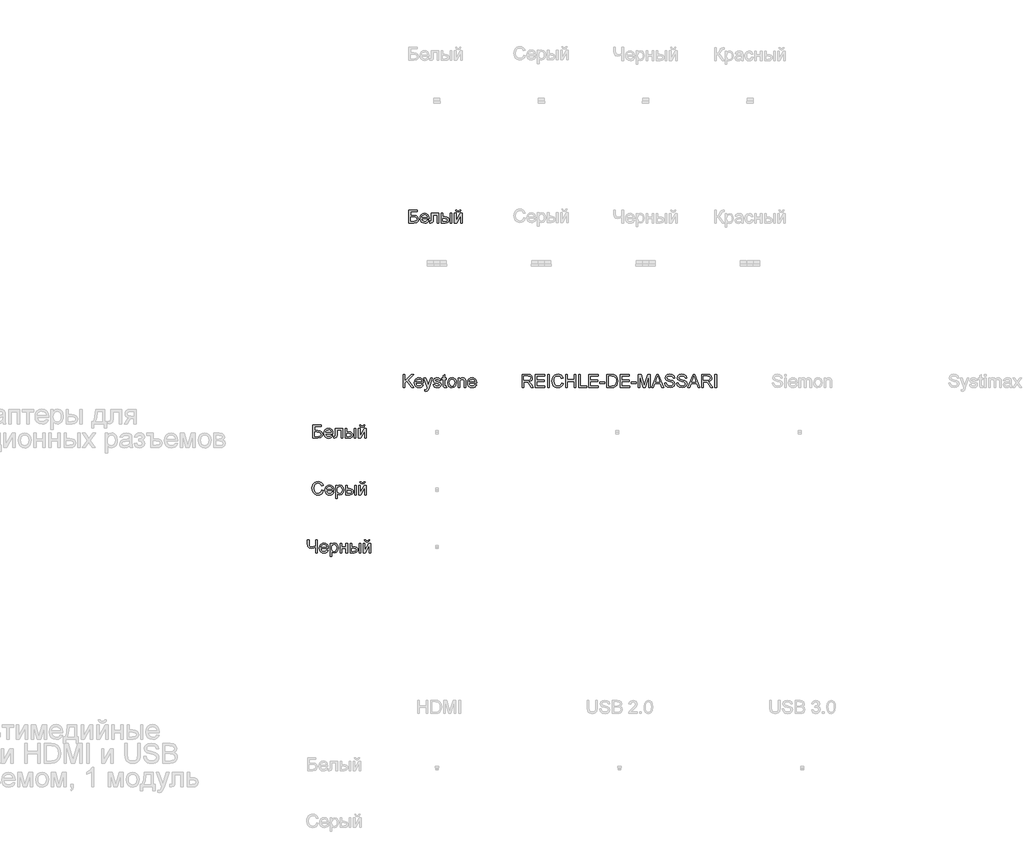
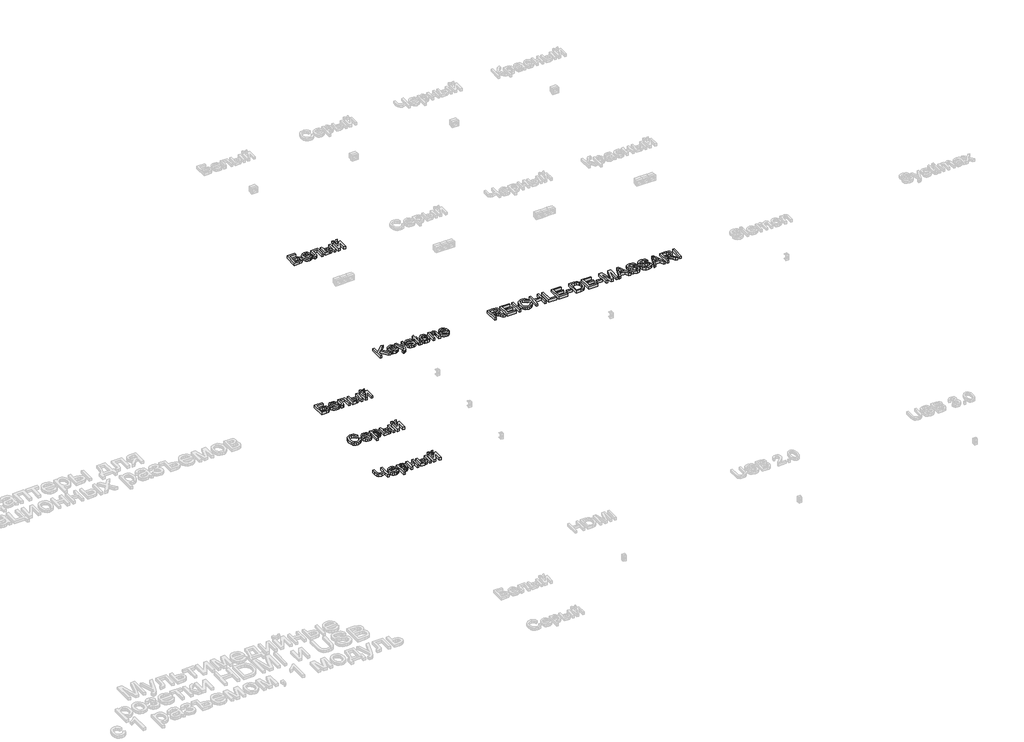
# One storey, part 13 of 15: 6 proxies.
"""IFC4 building model written with IfcOpenShell, lengths in millimetres."""

from ifc_helpers import new_model, si_unit, origin, origin_with_axes, place, context, project, spatial, polyline, outline, extrude, element, save

model = new_model("IFC4")

# Units and contexts
model_context = context("Model", 3, world=origin())
ifc_project = project(units=[si_unit("LENGTHUNIT", "METRE", prefix="MILLI")], contexts=[model_context])

# Site, building, storey
site = spatial("IfcSite", under=ifc_project)
building = spatial("IfcBuilding", under=site)
storey = spatial("IfcBuildingStorey", under=building, Name="Этаж 01", Elevation=0.0)

# Proxies
placement = place(None, origin())
element("IfcBuildingElementProxy", 1, Name="100 мм Arial", ObjectType="100 мм Arial", at=placement, inside=storey, context=model_context, shape_type="SweptSolid", body=[
    extrude(outline(polyline([(1294.7289559, 3453.6983923), (1357.5141498, 3453.6983923), (1357.5141498, 3441.1413536), (1307.2859947, 3441.1413536), (1307.2859947, 3411.3183865), (1330.8059169, 3411.3183865), (1351.529936, 3408.767738), (1363.8662455, 3399.1292297), (1368.5015587, 3382.6481163), (1365.2028835, 3368.3375067), (1355.3559087, 3357.4604624), (1333.0622598, 3353.2420822), (1294.7289559, 3353.2420822), (1294.7289559, 3453.6983923)]), holes=[polyline([(1307.2859947, 3365.799121), (1334.1904313, 3365.799121), (1350.4998664, 3369.9439248), (1354.5833565, 3375.1249295), (1355.9445199, 3382.3783362), (1352.8297857, 3392.2130482), (1344.1600333, 3397.461498), (1325.238636, 3398.7613477), (1307.2859947, 3398.7613477), (1307.2859947, 3365.799121)])]), origin_with_axes(), (0.0, 0.0, 1.0), 20.0),
    extrude(outline(polyline([(1435.8484893, 3375.2169), (1448.1602734, 3373.6472702), (1443.7242296, 3364.3705125), (1436.6455669, 3357.4359369), (1427.0837007, 3353.1133235), (1415.1980466, 3351.6724523), (1400.4643727, 3354.1587215), (1389.1274759, 3361.6175289), (1381.8985947, 3373.5644967), (1379.4889676, 3389.5152469), (1381.9231201, 3406.0024917), (1389.2255777, 3418.3326699), (1400.4091904, 3426.0214036), (1414.4868081, 3428.5843148), (1428.126033, 3426.0275349), (1439.0245372, 3418.3571953), (1446.1706449, 3406.0515426), (1448.5526808, 3389.5888233), (1448.4791044, 3386.204309), (1392.0460064, 3386.204309), (1394.2195758, 3376.804924), (1399.2687562, 3369.8948738), (1406.5558854, 3365.6458368), (1415.4433013, 3364.2294911), (1427.7550854, 3366.853716), (1435.8484893, 3375.2169)]), holes=[polyline([(1392.0460064, 3398.7613477), (1435.9956421, 3398.7613477), (1430.9679215, 3410.1411641), (1423.6470698, 3414.555748), (1414.4377571, 3416.027276), (1398.9744506, 3411.3306492), (1394.1092112, 3405.8400104), (1392.0460064, 3398.7613477)])]), origin_with_axes(), (0.0, 0.0, 1.0), 20.0),
    extrude(outline(polyline([(1467.388239, 3427.014685), (1523.8949134, 3427.014685), (1523.8949134, 3353.3156586), (1511.3378747, 3353.3156586), (1511.3378747, 3414.4576462), (1479.9452778, 3414.4576462), (1479.9452778, 3379.263602), (1479.0991492, 3363.0277433), (1474.4515733, 3356.1728754), (1463.4641644, 3353.2420822), (1453.2615704, 3353.8797443), (1453.2615704, 3365.799121), (1458.8779022, 3365.799121), (1464.5555476, 3366.5716731), (1466.8241533, 3369.0242198), (1467.388239, 3379.9748405), (1467.388239, 3427.014685)])), origin_with_axes(), (0.0, 0.0, 1.0), 20.0),
    extrude(outline(polyline([(1611.7941848, 3427.014685), (1624.3512236, 3427.014685), (1624.3512236, 3353.2420822), (1611.7941848, 3353.2420822), (1611.7941848, 3427.014685)])), origin_with_axes(), (0.0, 0.0, 1.0), 20.0),
    extrude(outline(polyline([(1542.7304716, 3427.014685), (1555.2875104, 3427.014685), (1555.2875104, 3400.3309776), (1570.8121306, 3400.3309776), (1584.2306263, 3398.758282), (1594.1726373, 3394.0401954), (1600.3254636, 3386.5568625), (1602.3764057, 3376.688428), (1600.6565574, 3367.7029103), (1595.4970124, 3360.1214755), (1586.5605456, 3354.9619305), (1573.5099319, 3353.2420822), (1542.7304716, 3353.2420822), (1542.7304716, 3427.014685)]), holes=[polyline([(1555.2875104, 3365.799121), (1568.1879057, 3365.799121), (1584.8406973, 3368.4356086), (1589.819367, 3376.6639025), (1586.1282843, 3384.3894244), (1569.8311119, 3387.7739388), (1555.2875104, 3387.7739388), (1555.2875104, 3365.799121)])]), origin_with_axes(), (0.0, 0.0, 1.0), 20.0),
    extrude(outline(polyline([(1643.1867817, 3427.014685), (1655.7438205, 3427.014685), (1655.7438205, 3370.7532652), (1686.5968572, 3427.014685), (1702.8327159, 3427.014685), (1702.8327159, 3353.2420822), (1690.2756771, 3353.2420822), (1690.2756771, 3409.1601455), (1659.6188442, 3353.2420822), (1643.1867817, 3353.2420822), (1643.1867817, 3427.014685)])), origin_with_axes(), (0.0, 0.0, 1.0), 20.0),
    extrude(outline(polyline([(1683.9971577, 3453.6983923), (1693.4149368, 3453.6983923), (1687.3203584, 3439.7311393), (1673.7945637, 3434.8628342), (1659.1528603, 3439.6943511), (1652.6045608, 3453.6983923), (1662.0223399, 3453.6983923), (1665.5540071, 3446.6227953), (1672.6663923, 3444.2806133), (1680.4654906, 3446.5492189), (1683.9971577, 3453.6983923)])), origin_with_axes(), (0.0, 0.0, 1.0), 20.0),
])
element("IfcBuildingElementProxy", 2, Name="100 мм Arial", ObjectType="100 мм Arial", at=placement, inside=storey, context=model_context, shape_type="SweptSolid", body=[
    extrude(outline(polyline([(558.5746136, 1803.722234), (621.3598074, 1803.722234), (621.3598074, 1791.1651952), (571.1316523, 1791.1651952), (571.1316523, 1761.3422282), (594.6515746, 1761.3422282), (615.3755936, 1758.7915797), (627.7119032, 1749.1530714), (632.3472163, 1732.671958), (629.0485411, 1718.3613484), (619.2015664, 1707.4843041), (596.9079175, 1703.2659239), (558.5746136, 1703.2659239), (558.5746136, 1803.722234)]), holes=[polyline([(571.1316523, 1715.8229626), (598.0360889, 1715.8229626), (614.345524, 1719.9677664), (618.4290142, 1725.1487712), (619.7901776, 1732.4021779), (616.6754433, 1742.2368899), (608.005691, 1747.4853397), (589.0842937, 1748.7851894), (571.1316523, 1748.7851894), (571.1316523, 1715.8229626)])]), origin_with_axes(), (0.0, 0.0, 1.0), 20.0),
    extrude(outline(polyline([(699.6941469, 1725.2407417), (712.005931, 1723.6711119), (707.5698873, 1714.3943542), (700.4912246, 1707.4597786), (690.9293584, 1703.1371652), (679.0437042, 1701.696294), (664.3100303, 1704.1825632), (652.9731335, 1711.6413706), (645.7442523, 1723.5883384), (643.3346253, 1739.5390886), (645.7687778, 1756.0263333), (653.0712354, 1768.3565115), (664.254848, 1776.0452452), (678.3324657, 1778.6081565), (691.9716907, 1776.0513766), (702.8701948, 1768.381037), (710.0163026, 1756.0753843), (712.3983385, 1739.612665), (712.3247621, 1736.2281506), (655.891664, 1736.2281506), (658.0652335, 1726.8287657), (663.1144139, 1719.9187155), (670.401543, 1715.6696785), (679.2889589, 1714.2533328), (691.600743, 1716.8775577), (699.6941469, 1725.2407417)]), holes=[polyline([(655.891664, 1748.7851894), (699.8412997, 1748.7851894), (694.8135791, 1760.1650058), (687.4927274, 1764.5795897), (678.2834148, 1766.0511177), (662.8201083, 1761.3544909), (657.9548689, 1755.8638521), (655.891664, 1748.7851894)])]), origin_with_axes(), (0.0, 0.0, 1.0), 20.0),
    extrude(outline(polyline([(731.2338966, 1777.0385266), (787.7405711, 1777.0385266), (787.7405711, 1703.3395003), (775.1835323, 1703.3395003), (775.1835323, 1764.4814879), (743.7909354, 1764.4814879), (743.7909354, 1729.2874437), (742.9448068, 1713.0515849), (738.2972309, 1706.1967171), (727.309822, 1703.2659239), (717.107228, 1703.903586), (717.107228, 1715.8229626), (722.7235598, 1715.8229626), (728.4012053, 1716.5955148), (730.6698109, 1719.0480615), (731.2338966, 1729.9986822), (731.2338966, 1777.0385266)])), origin_with_axes(), (0.0, 0.0, 1.0), 20.0),
    extrude(outline(polyline([(875.6398425, 1777.0385266), (888.1968812, 1777.0385266), (888.1968812, 1703.2659239), (875.6398425, 1703.2659239), (875.6398425, 1777.0385266)])), origin_with_axes(), (0.0, 0.0, 1.0), 20.0),
    extrude(outline(polyline([(806.5761292, 1777.0385266), (819.133168, 1777.0385266), (819.133168, 1750.3548193), (834.6577882, 1750.3548193), (848.076284, 1748.7821237), (858.0182949, 1744.0640371), (864.1711213, 1736.5807042), (866.2220634, 1726.7122697), (864.5022151, 1717.726752), (859.3426701, 1710.1453172), (850.4062033, 1704.9857722), (837.3555895, 1703.2659239), (806.5761292, 1703.2659239), (806.5761292, 1777.0385266)]), holes=[polyline([(819.133168, 1715.8229626), (832.0335633, 1715.8229626), (848.686355, 1718.4594503), (853.6650246, 1726.6877442), (849.9739419, 1734.4132661), (833.6767696, 1737.7977805), (819.133168, 1737.7977805), (819.133168, 1715.8229626)])]), origin_with_axes(), (0.0, 0.0, 1.0), 20.0),
    extrude(outline(polyline([(907.0324394, 1777.0385266), (919.5894782, 1777.0385266), (919.5894782, 1720.7771068), (950.4425148, 1777.0385266), (966.6783735, 1777.0385266), (966.6783735, 1703.2659239), (954.1213348, 1703.2659239), (954.1213348, 1759.1839871), (923.4645018, 1703.2659239), (907.0324394, 1703.2659239), (907.0324394, 1777.0385266)])), origin_with_axes(), (0.0, 0.0, 1.0), 20.0),
    extrude(outline(polyline([(947.8428154, 1803.722234), (957.2605945, 1803.722234), (951.1660161, 1789.7549809), (937.6402214, 1784.8866759), (922.998518, 1789.7181927), (916.4502185, 1803.722234), (925.8679975, 1803.722234), (929.3996647, 1796.646637), (936.5120499, 1794.3044549), (944.3111482, 1796.5730606), (947.8428154, 1803.722234)])), origin_with_axes(), (0.0, 0.0, 1.0), 20.0),
])
element("IfcBuildingElementProxy", 3, Name="100 мм Arial", ObjectType="100 мм Arial", at=placement, inside=storey, context=model_context, shape_type="SweptSolid", body=[
    extrude(outline(polyline([(626.8535119, 1303.9750029), (639.4105506, 1300.7376413), (633.6164092, 1286.105135), (624.5235926, 1275.4150973), (612.5796905, 1268.8759948), (598.2322926, 1266.696294), (583.6672313, 1268.3456316), (572.1004083, 1273.2936445), (563.2344522, 1281.3686543), (556.7719918, 1292.3989828), (551.5112793, 1319.2543684), (552.9981357, 1333.9022032), (557.4587048, 1346.5512124), (564.6599949, 1356.7997917), (574.3690139, 1364.2463364), (585.8837203, 1368.780482), (598.5020728, 1370.2918639), (612.2700564, 1368.3359579), (623.6529385, 1362.4682401), (632.2950997, 1353.050461), (637.8409208, 1340.4443713), (625.283882, 1337.4522644), (614.9831862, 1352.8910455), (598.0115634, 1357.7348251), (578.3666649, 1352.363748), (567.2688914, 1337.9427738), (564.068318, 1319.2788939), (567.8575026, 1297.6474325), (579.6542519, 1283.8273323), (596.9814939, 1279.2533328), (607.463065, 1280.8106999), (616.1971967, 1285.4828012), (622.7914815, 1293.2205859), (626.8535119, 1303.9750029)])), origin_with_axes(), (0.0, 0.0, 1.0), 20.0),
    extrude(outline(polyline([(706.7574812, 1290.2407417), (719.0692653, 1288.6711119), (714.6332216, 1279.3943542), (707.5545589, 1272.4597786), (697.9926927, 1268.1371652), (686.1070386, 1266.696294), (671.3733647, 1269.1825632), (660.0364678, 1276.6413706), (652.8075866, 1288.5883384), (650.3979596, 1304.5390886), (652.8321121, 1321.0263333), (660.1345697, 1333.3565115), (671.3181824, 1341.0452452), (685.3958, 1343.6081565), (699.035025, 1341.0513766), (709.9335291, 1333.381037), (717.0796369, 1321.0753843), (719.4616728, 1304.612665), (719.3880964, 1301.2281506), (662.9549983, 1301.2281506), (665.1285678, 1291.8287657), (670.1777482, 1284.9187155), (677.4648774, 1280.6696785), (686.3522932, 1279.2533328), (698.6640773, 1281.8775577), (706.7574812, 1290.2407417)]), holes=[polyline([(662.9549983, 1313.7851894), (706.904634, 1313.7851894), (701.8769134, 1325.1650058), (694.5560617, 1329.5795897), (685.3467491, 1331.0511177), (669.8834426, 1326.3544909), (665.0182032, 1320.8638521), (662.9549983, 1313.7851894)])]), origin_with_axes(), (0.0, 0.0, 1.0), 20.0),
    extrude(outline(polyline([(732.0187116, 1240.0125866), (732.0187116, 1342.0385266), (744.5757503, 1342.0385266), (744.5757503, 1329.7267425), (753.2577654, 1340.137803), (764.9809383, 1343.6081565), (780.897966, 1338.7521141), (791.2967637, 1325.0669039), (794.8039054, 1305.716311), (790.8430426, 1285.3724366), (779.3405989, 1271.5155482), (763.4603594, 1266.696294), (752.5342642, 1269.9213928), (744.5757503, 1278.0761104), (744.5757503, 1240.0125866), (732.0187116, 1240.0125866)]), holes=[polyline([(744.5757503, 1304.5636141), (745.933848, 1293.306425), (750.0081411, 1285.4337503), (756.0199461, 1280.7984372), (763.1905793, 1279.2533328), (770.4777085, 1280.8536195), (776.6427976, 1285.6544795), (780.8458494, 1293.8153284), (782.2468666, 1305.4955818), (780.8795719, 1316.6914572), (776.7776876, 1324.6744965), (770.7750797, 1329.4569624), (763.7056141, 1331.0511177), (756.6085572, 1329.3557948), (750.3760231, 1324.2698263), (746.0258185, 1315.9526275), (744.5757503, 1304.5636141)])]), origin_with_axes(), (0.0, 0.0, 1.0), 20.0),
    extrude(outline(polyline([(877.9942872, 1342.0385266), (890.551326, 1342.0385266), (890.551326, 1268.2659239), (877.9942872, 1268.2659239), (877.9942872, 1342.0385266)])), origin_with_axes(), (0.0, 0.0, 1.0), 20.0),
    extrude(outline(polyline([(808.930574, 1342.0385266), (821.4876128, 1342.0385266), (821.4876128, 1315.3548193), (837.012233, 1315.3548193), (850.4307288, 1313.7821237), (860.3727397, 1309.0640371), (866.525566, 1301.5807042), (868.5765082, 1291.7122697), (866.8566598, 1282.726752), (861.6971149, 1275.1453172), (852.7606481, 1269.9857722), (839.7100343, 1268.2659239), (808.930574, 1268.2659239), (808.930574, 1342.0385266)]), holes=[polyline([(821.4876128, 1280.8229626), (834.3880081, 1280.8229626), (851.0407997, 1283.4594503), (856.0194694, 1291.6877442), (852.3283867, 1299.4132661), (836.0312143, 1302.7977805), (821.4876128, 1302.7977805), (821.4876128, 1280.8229626)])]), origin_with_axes(), (0.0, 0.0, 1.0), 20.0),
    extrude(outline(polyline([(950.1972602, 1368.722234), (959.6150392, 1368.722234), (953.5204609, 1354.7549809), (939.9946662, 1349.8866759), (925.3529628, 1354.7181927), (918.8046632, 1368.722234), (928.2224423, 1368.722234), (931.7541095, 1361.646637), (938.8664947, 1359.3044549), (946.665593, 1361.5730606), (950.1972602, 1368.722234)])), origin_with_axes(), (0.0, 0.0, 1.0), 20.0),
    extrude(outline(polyline([(909.3868842, 1342.0385266), (921.9439229, 1342.0385266), (921.9439229, 1285.7771068), (952.7969596, 1342.0385266), (969.0328183, 1342.0385266), (969.0328183, 1268.2659239), (956.4757795, 1268.2659239), (956.4757795, 1324.1839871), (925.8189466, 1268.2659239), (909.3868842, 1268.2659239), (909.3868842, 1342.0385266)])), origin_with_axes(), (0.0, 0.0, 1.0), 20.0),
])
element("IfcBuildingElementProxy", 4, Name="100 мм Arial", ObjectType="100 мм Arial", at=placement, inside=storey, context=model_context, shape_type="SweptSolid", body=[
    extrude(outline(polyline([(592.3216553, 823.2659239), (579.7646165, 823.2659239), (579.7646165, 863.4876887), (548.6663252, 856.2281506), (530.3090136, 861.1945576), (519.6649612, 873.8006473), (516.9794226, 893.8011651), (516.9794226, 923.722234), (529.5364614, 923.722234), (529.5364614, 895.4934223), (531.0447776, 881.9155109), (535.5697261, 873.9478001), (550.0642767, 868.7851894), (579.7646165, 875.0146579), (579.7646165, 923.722234), (592.3216553, 923.722234), (592.3216553, 823.2659239)])), origin_with_axes(), (0.0, 0.0, 1.0), 20.0),
    extrude(outline(polyline([(664.3774754, 845.2407417), (676.6892595, 843.6711119), (672.2532158, 834.3943542), (665.174553, 827.4597786), (655.6126868, 823.1371652), (643.7270327, 821.696294), (628.9933588, 824.1825632), (617.656462, 831.6413706), (610.4275808, 843.5883384), (608.0179537, 859.5390886), (610.4521062, 876.0263333), (617.7545639, 888.3565115), (628.9381765, 896.0452452), (643.0157942, 898.6081565), (656.6550192, 896.0513766), (667.5535233, 888.381037), (674.699631, 876.0753843), (677.0816669, 859.612665), (677.0080905, 856.2281506), (620.5749925, 856.2281506), (622.7485619, 846.8287657), (627.7977423, 839.9187155), (635.0848715, 835.6696785), (643.9722874, 834.2533328), (656.2840715, 836.8775577), (664.3774754, 845.2407417)]), holes=[polyline([(620.5749925, 868.7851894), (664.5246282, 868.7851894), (659.4969076, 880.1650058), (652.1760559, 884.5795897), (642.9667433, 886.0511177), (627.5034367, 881.3544909), (622.6381973, 875.8638521), (620.5749925, 868.7851894)])]), origin_with_axes(), (0.0, 0.0, 1.0), 20.0),
    extrude(outline(polyline([(689.6387057, 795.0125866), (689.6387057, 897.0385266), (702.1957445, 897.0385266), (702.1957445, 884.7267425), (710.8777596, 895.137803), (722.6009325, 898.6081565), (738.5179601, 893.7521141), (748.9167579, 880.0669039), (752.4238996, 860.716311), (748.4630367, 840.3724366), (736.960593, 826.5155482), (721.0803536, 821.696294), (710.1542583, 824.9213928), (702.1957445, 833.0761104), (702.1957445, 795.0125866), (689.6387057, 795.0125866)]), holes=[polyline([(702.1957445, 859.5636141), (703.5538422, 848.306425), (707.6281353, 840.4337503), (713.6399402, 835.7984372), (720.8105734, 834.2533328), (728.0977026, 835.8536195), (734.2627917, 840.6544795), (738.4658435, 848.8153284), (739.8668608, 860.4955818), (738.499566, 871.6914572), (734.3976818, 879.6744965), (728.3950739, 884.4569624), (721.3256082, 886.0511177), (714.2285514, 884.3557948), (707.9960173, 879.2698263), (703.6458127, 870.9526275), (702.1957445, 859.5636141)])]), origin_with_axes(), (0.0, 0.0, 1.0), 20.0),
    extrude(outline(polyline([(766.5505682, 897.0385266), (779.1076069, 897.0385266), (779.1076069, 868.7851894), (812.0698337, 868.7851894), (812.0698337, 897.0385266), (824.6268725, 897.0385266), (824.6268725, 823.2659239), (812.0698337, 823.2659239), (812.0698337, 856.2281506), (779.1076069, 856.2281506), (779.1076069, 823.2659239), (766.5505682, 823.2659239), (766.5505682, 897.0385266)])), origin_with_axes(), (0.0, 0.0, 1.0), 20.0),
    extrude(outline(polyline([(843.4624306, 897.0385266), (856.0194694, 897.0385266), (856.0194694, 870.3548193), (871.5440896, 870.3548193), (884.9625854, 868.7821237), (894.9045963, 864.0640371), (901.0574227, 856.5807042), (903.1083648, 846.7122697), (901.3885165, 837.726752), (896.2289715, 830.1453172), (887.2925047, 824.9857722), (874.2418909, 823.2659239), (843.4624306, 823.2659239), (843.4624306, 897.0385266)]), holes=[polyline([(856.0194694, 835.8229626), (868.9198647, 835.8229626), (885.5726563, 838.4594503), (890.551326, 846.6877442), (886.8602433, 854.4132661), (870.5630709, 857.7977805), (856.0194694, 857.7977805), (856.0194694, 835.8229626)])]), origin_with_axes(), (0.0, 0.0, 1.0), 20.0),
    extrude(outline(polyline([(912.5261439, 897.0385266), (925.0831826, 897.0385266), (925.0831826, 823.2659239), (912.5261439, 823.2659239), (912.5261439, 897.0385266)])), origin_with_axes(), (0.0, 0.0, 1.0), 20.0),
    extrude(outline(polyline([(943.9187408, 897.0385266), (956.4757795, 897.0385266), (956.4757795, 840.7771068), (987.3288162, 897.0385266), (1003.5646749, 897.0385266), (1003.5646749, 823.2659239), (991.0076362, 823.2659239), (991.0076362, 879.1839871), (960.3508032, 823.2659239), (943.9187408, 823.2659239), (943.9187408, 897.0385266)])), origin_with_axes(), (0.0, 0.0, 1.0), 20.0),
    extrude(outline(polyline([(984.7291168, 923.722234), (994.1468959, 923.722234), (988.0523175, 909.7549809), (974.5265228, 904.8866759), (959.8848194, 909.7181927), (953.3365199, 923.722234), (962.7542989, 923.722234), (966.2859661, 916.646637), (973.3983513, 914.3044549), (981.1974496, 916.5730606), (984.7291168, 923.722234)])), origin_with_axes(), (0.0, 0.0, 1.0), 20.0),
])
element("IfcBuildingElementProxy", 5, Name="100 мм Arial", ObjectType="100 мм Arial", at=placement, inside=storey, context=model_context, shape_type="SweptSolid", body=[
    extrude(outline(polyline([(1249.6065283, 2091.312908), (1249.6065283, 2191.7692181), (1262.1635671, 2191.7692181), (1262.1635671, 2142.5956581), (1313.6670464, 2191.7692181), (1331.2272803, 2191.7692181), (1287.9888832, 2150.4683328), (1332.7969102, 2091.312908), (1317.4439682, 2091.312908), (1279.0861389, 2141.9825214), (1262.1635671, 2125.8447646), (1262.1635671, 2091.312908), (1249.6065283, 2091.312908)])), origin_with_axes(), (0.0, 0.0, 1.0), 20.0),
    extrude(outline(polyline([(1392.2956915, 2113.2877258), (1404.6074756, 2111.718096), (1400.1714319, 2102.4413383), (1393.0927692, 2095.5067627), (1383.530903, 2091.1841493), (1371.6452489, 2089.7432781), (1356.911575, 2092.2295473), (1345.5746781, 2099.6883547), (1338.3457969, 2111.6353225), (1335.9361699, 2127.5860727), (1338.3703224, 2144.0733174), (1345.67278, 2156.4034956), (1356.8563927, 2164.0922293), (1370.9340103, 2166.6551406), (1384.5732353, 2164.0983607), (1395.4717394, 2156.4280211), (1402.6178472, 2144.1223684), (1404.9998831, 2127.6596491), (1404.9263067, 2124.2751347), (1348.4932086, 2124.2751347), (1350.6667781, 2114.8757497), (1355.7159585, 2107.9656996), (1363.0030877, 2103.7166626), (1371.8905035, 2102.3003169), (1384.2022876, 2104.9245418), (1392.2956915, 2113.2877258)]), holes=[polyline([(1348.4932086, 2136.8321735), (1392.4428443, 2136.8321735), (1387.4151237, 2148.2119899), (1380.094272, 2152.6265738), (1370.8849594, 2154.0981018), (1355.4216529, 2149.401475), (1350.5564135, 2143.9108362), (1348.4932086, 2136.8321735)])]), origin_with_axes(), (0.0, 0.0, 1.0), 20.0),
    extrude(outline(polyline([(1417.5569219, 2063.0595707), (1415.987292, 2075.1506256), (1422.3639133, 2074.0469796), (1428.3236016, 2075.4326685), (1431.9778961, 2079.2954294), (1435.4114614, 2088.5415303), (1436.39248, 2091.5826881), (1409.7087726, 2165.0855107), (1422.9525245, 2165.0855107), (1437.1037185, 2124.1279819), (1442.0333373, 2107.7449704), (1446.962956, 2122.2149955), (1461.5065576, 2165.0855107), (1474.6522075, 2165.0855107), (1448.9740443, 2089.5470744), (1442.3031174, 2073.1640629), (1435.0190539, 2064.3103695), (1425.2333928, 2061.4899409), (1417.5569219, 2063.0595707)])), origin_with_axes(), (0.0, 0.0, 1.0), 20.0),
    extrude(outline(polyline([(1480.3421157, 2113.2877258), (1492.8991545, 2114.8573556), (1498.71169, 2105.5376784), (1512.0290182, 2102.3003169), (1524.8313117, 2105.2678983), (1529.0006409, 2112.2331307), (1524.8067862, 2117.873988), (1511.8818654, 2121.4547061), (1492.9727309, 2127.5983354), (1484.7199114, 2134.7720343), (1481.9117456, 2144.9010519), (1484.1680885, 2154.2575173), (1490.3239805, 2161.4066908), (1498.3070198, 2165.1222989), (1509.1104877, 2166.6551406), (1524.3898533, 2164.1903312), (1534.1019379, 2157.5194043), (1538.41842, 2146.2499526), (1525.8613812, 2144.6803227), (1521.140229, 2151.608767), (1510.0915064, 2154.0981018), (1498.0740279, 2151.7191316), (1494.4687843, 2146.1763762), (1495.9648378, 2142.5220817), (1500.6492018, 2139.750704), (1511.4649325, 2137.0774282), (1529.8958205, 2131.1667908), (1538.4552082, 2124.4713384), (1541.5576797, 2113.5575059), (1537.915648, 2101.5400274), (1527.4064856, 2092.8212241), (1511.85734, 2089.7432781), (1499.196068, 2091.2270688), (1489.9560985, 2095.678441), (1483.7879437, 2103.0483436), (1480.3421157, 2113.2877258)])), origin_with_axes(), (0.0, 0.0, 1.0), 20.0),
    extrude(outline(polyline([(1582.3680557, 2101.7852821), (1583.9376855, 2090.945026), (1574.5444319, 2089.7432781), (1564.0230069, 2091.8279427), (1558.7745571, 2097.2971217), (1557.2539782, 2111.5464177), (1557.2539782, 2152.5284719), (1547.8361991, 2152.5284719), (1547.8361991, 2165.0855107), (1557.2539782, 2165.0855107), (1557.2539782, 2183.0136266), (1569.8110169, 2190.395792), (1569.8110169, 2165.0855107), (1582.3680557, 2165.0855107), (1582.3680557, 2152.5284719), (1569.8110169, 2152.5284719), (1569.8110169, 2111.9142997), (1570.4732045, 2105.4395766), (1572.6191828, 2103.1464455), (1576.8988767, 2102.3003169), (1582.3680557, 2101.7852821)])), origin_with_axes(), (0.0, 0.0, 1.0), 20.0),
    extrude(outline(polyline([(1591.7858348, 2128.1992093), (1594.5020302, 2145.9863038), (1602.6506164, 2158.4881603), (1612.7183203, 2164.6133955), (1624.772587, 2166.6551406), (1637.9642222, 2164.1688714), (1648.5009757, 2156.710064), (1655.4079602, 2144.8673294), (1657.7102883, 2129.2292789), (1653.6390609, 2106.8865791), (1641.7809979, 2094.2437012), (1624.772587, 2089.7432781), (1611.4215363, 2092.2203502), (1600.8970455, 2099.6515665), (1594.0636375, 2111.7426214), (1591.7858348, 2128.1992093)]), holes=[polyline([(1604.3428735, 2128.2237348), (1605.7960074, 2116.8592468), (1610.1554091, 2108.7627773), (1616.7159713, 2103.915932), (1624.772587, 2102.3003169), (1632.7924145, 2103.925129), (1639.340714, 2108.7995655), (1643.7001157, 2117.0033339), (1645.1532495, 2128.6161423), (1643.6909186, 2139.6495364), (1639.3039258, 2147.6356414), (1632.7464293, 2152.4824867), (1624.772587, 2154.0981018), (1616.7159713, 2152.4886181), (1610.1554091, 2147.6601669), (1605.7960074, 2139.5820914), (1604.3428735, 2128.2237348)])]), origin_with_axes(), (0.0, 0.0, 1.0), 20.0),
    extrude(outline(polyline([(1671.8369569, 2091.312908), (1671.8369569, 2165.0855107), (1684.3939957, 2165.0855107), (1684.3939957, 2154.7848149), (1693.9957158, 2163.6875591), (1707.1045775, 2166.6551406), (1718.9626405, 2164.2639076), (1727.0560444, 2157.9853882), (1730.8207035, 2148.7515501), (1731.4828911, 2136.6114443), (1731.4828911, 2091.312908), (1718.9258523, 2091.312908), (1718.9258523, 2134.9191871), (1717.4788498, 2146.0292234), (1712.3652901, 2151.9030726), (1703.7445886, 2154.0981018), (1690.1206921, 2149.1684831), (1685.8256698, 2142.025441), (1684.3939957, 2130.4555522), (1684.3939957, 2091.312908), (1671.8369569, 2091.312908)])), origin_with_axes(), (0.0, 0.0, 1.0), 20.0),
    extrude(outline(polyline([(1800.3994515, 2113.2877258), (1812.7112356, 2111.718096), (1808.2751919, 2102.4413383), (1801.1965292, 2095.5067627), (1791.634663, 2091.1841493), (1779.7490088, 2089.7432781), (1765.0153349, 2092.2295473), (1753.6784381, 2099.6883547), (1746.4495569, 2111.6353225), (1744.0399298, 2127.5860727), (1746.4740824, 2144.0733174), (1753.77654, 2156.4034956), (1764.9601526, 2164.0922293), (1779.0377703, 2166.6551406), (1792.6769953, 2164.0983607), (1803.5754994, 2156.4280211), (1810.7216072, 2144.1223684), (1813.1036431, 2127.6596491), (1813.0300667, 2124.2751347), (1756.5969686, 2124.2751347), (1758.7705381, 2114.8757497), (1763.8197185, 2107.9656996), (1771.1068476, 2103.7166626), (1779.9942635, 2102.3003169), (1792.3060476, 2104.9245418), (1800.3994515, 2113.2877258)]), holes=[polyline([(1756.5969686, 2136.8321735), (1800.5466043, 2136.8321735), (1795.5188837, 2148.2119899), (1788.198032, 2152.6265738), (1778.9887194, 2154.0981018), (1763.5254129, 2149.401475), (1758.6601735, 2143.9108362), (1756.5969686, 2136.8321735)])]), origin_with_axes(), (0.0, 0.0, 1.0), 20.0),
])
element("IfcBuildingElementProxy", 6, Name="100 мм Arial", ObjectType="100 мм Arial", at=placement, inside=storey, context=model_context, shape_type="SweptSolid", body=[
    extrude(outline(polyline([(2162.6192748, 2091.312908), (2162.6192748, 2191.7692181), (2205.9067229, 2191.7692181), (2226.0053426, 2189.0591541), (2236.9927515, 2179.4696967), (2241.1007671, 2164.2761703), (2239.3993129, 2154.3801447), (2234.2949502, 2146.1763762), (2225.6343949, 2140.1615055), (2213.2643628, 2136.8321735), (2220.4012735, 2131.4610964), (2230.5793421, 2118.5361756), (2247.3302356, 2091.312908), (2232.7375831, 2091.312908), (2219.6655095, 2112.1350289), (2210.223205, 2125.918341), (2203.5890663, 2132.4298523), (2197.6171153, 2134.8210852), (2190.3330518, 2135.2625436), (2175.1763136, 2135.2625436), (2175.1763136, 2091.312908), (2162.6192748, 2091.312908)]), holes=[polyline([(2175.1763136, 2147.8195824), (2203.282498, 2147.8195824), (2217.6176331, 2149.5976787), (2225.7600879, 2155.2875869), (2228.5437284, 2163.8101865), (2223.2339649, 2174.8711718), (2206.4462832, 2179.2121793), (2175.1763136, 2179.2121793), (2175.1763136, 2147.8195824)])]), origin_with_axes(), (0.0, 0.0, 1.0), 20.0),
    extrude(outline(polyline([(2263.075585, 2091.312908), (2263.075585, 2191.7692181), (2335.2785579, 2191.7692181), (2335.2785579, 2179.2121793), (2275.6326237, 2179.2121793), (2275.6326237, 2149.3892123), (2332.1392982, 2149.3892123), (2332.1392982, 2136.8321735), (2275.6326237, 2136.8321735), (2275.6326237, 2103.8699467), (2336.8481877, 2103.8699467), (2336.8481877, 2091.312908), (2263.075585, 2091.312908)])), origin_with_axes(), (0.0, 0.0, 1.0), 20.0),
    extrude(outline(polyline([(2357.2533757, 2091.312908), (2357.2533757, 2191.7692181), (2369.8104145, 2191.7692181), (2369.8104145, 2091.312908), (2357.2533757, 2091.312908)])), origin_with_axes(), (0.0, 0.0, 1.0), 20.0),
    extrude(outline(polyline([(2465.5578351, 2127.0219869), (2478.1148739, 2123.7846254), (2472.3207325, 2109.152119), (2463.2279158, 2098.4620814), (2451.2840137, 2091.9229789), (2436.9366159, 2089.7432781), (2422.3715546, 2091.3926157), (2410.8047315, 2096.3406286), (2401.9387754, 2104.4156383), (2395.476315, 2115.4459668), (2390.2156025, 2142.3013525), (2391.7024589, 2156.9491873), (2396.1630281, 2169.5981965), (2403.3643181, 2179.8467758), (2413.0733371, 2187.2933205), (2424.5880436, 2191.8274661), (2437.206396, 2193.3388479), (2450.9743797, 2191.382942), (2462.3572618, 2185.5152242), (2470.999423, 2176.0974451), (2476.545244, 2163.4913554), (2463.9882053, 2160.4992485), (2453.6875094, 2175.9380296), (2436.7158867, 2180.7818092), (2417.0709881, 2175.410732), (2405.9732146, 2160.9897578), (2402.7726413, 2142.3258779), (2406.5618258, 2120.6944166), (2418.3585751, 2106.8743163), (2435.6858171, 2102.3003169), (2446.1673883, 2103.857684), (2454.90152, 2108.5297853), (2461.4958047, 2116.26757), (2465.5578351, 2127.0219869)])), origin_with_axes(), (0.0, 0.0, 1.0), 20.0),
    extrude(outline(polyline([(2495.3808022, 2091.312908), (2495.3808022, 2191.7692181), (2507.937841, 2191.7692181), (2507.937841, 2150.9588421), (2561.3052557, 2150.9588421), (2561.3052557, 2191.7692181), (2573.8622945, 2191.7692181), (2573.8622945, 2091.312908), (2561.3052557, 2091.312908), (2561.3052557, 2138.4018033), (2507.937841, 2138.4018033), (2507.937841, 2091.312908), (2495.3808022, 2091.312908)])), origin_with_axes(), (0.0, 0.0, 1.0), 20.0),
    extrude(outline(polyline([(2595.8371123, 2091.312908), (2595.8371123, 2191.7692181), (2608.3941511, 2191.7692181), (2608.3941511, 2103.8699467), (2658.6223062, 2103.8699467), (2658.6223062, 2091.312908), (2595.8371123, 2091.312908)])), origin_with_axes(), (0.0, 0.0, 1.0), 20.0),
    extrude(outline(polyline([(2672.7489748, 2091.312908), (2672.7489748, 2191.7692181), (2744.9519477, 2191.7692181), (2744.9519477, 2179.2121793), (2685.3060136, 2179.2121793), (2685.3060136, 2149.3892123), (2741.812688, 2149.3892123), (2741.812688, 2136.8321735), (2685.3060136, 2136.8321735), (2685.3060136, 2103.8699467), (2746.5215776, 2103.8699467), (2746.5215776, 2091.312908), (2672.7489748, 2091.312908)])), origin_with_axes(), (0.0, 0.0, 1.0), 20.0),
    extrude(outline(polyline([(2757.5089865, 2121.135875), (2757.5089865, 2133.6929138), (2796.7497326, 2133.6929138), (2796.7497326, 2121.135875), (2757.5089865, 2121.135875)])), origin_with_axes(), (0.0, 0.0, 1.0), 20.0),
    extrude(outline(polyline([(2812.4460311, 2091.312908), (2812.4460311, 2191.7692181), (2847.100515, 2191.7692181), (2865.0286309, 2190.3222156), (2879.7929617, 2183.1362539), (2891.6878129, 2165.9684275), (2895.6364129, 2142.0806233), (2892.9631371, 2121.8103254), (2886.0960065, 2107.1808847), (2876.9234821, 2098.0696739), (2864.9182663, 2093.0296906), (2848.7682468, 2091.312908), (2812.4460311, 2091.312908)]), holes=[polyline([(2825.0030699, 2103.8699467), (2847.2231424, 2103.8699467), (2863.3854247, 2105.6848312), (2872.7051019, 2110.8106537), (2880.3447847, 2123.2818533), (2883.0793742, 2142.276827), (2881.7396706, 2155.9620372), (2877.7205598, 2166.0665294), (2864.6852744, 2177.2010911), (2846.8797858, 2179.2121793), (2825.0030699, 2179.2121793), (2825.0030699, 2103.8699467)])]), origin_with_axes(), (0.0, 0.0, 1.0), 20.0),
    extrude(outline(polyline([(2912.9023412, 2091.312908), (2912.9023412, 2191.7692181), (2985.1053142, 2191.7692181), (2985.1053142, 2179.2121793), (2925.45938, 2179.2121793), (2925.45938, 2149.3892123), (2981.9660545, 2149.3892123), (2981.9660545, 2136.8321735), (2925.45938, 2136.8321735), (2925.45938, 2103.8699467), (2986.674944, 2103.8699467), (2986.674944, 2091.312908), (2912.9023412, 2091.312908)])), origin_with_axes(), (0.0, 0.0, 1.0), 20.0),
    extrude(outline(polyline([(2997.6623529, 2121.135875), (2997.6623529, 2133.6929138), (3036.9030991, 2133.6929138), (3036.9030991, 2121.135875), (2997.6623529, 2121.135875)])), origin_with_axes(), (0.0, 0.0, 1.0), 20.0),
    extrude(outline(polyline([(3052.5993975, 2091.312908), (3052.5993975, 2191.7692181), (3074.2063334, 2191.7692181), (3094.7586742, 2120.9641968), (3098.903478, 2106.1753406), (3103.3916384, 2122.1904701), (3123.6006226, 2191.7692181), (3145.2075585, 2191.7692181), (3145.2075585, 2091.312908), (3132.6505197, 2091.312908), (3132.6505197, 2179.2121793), (3107.4138148, 2091.312908), (3090.3931412, 2091.312908), (3065.1564363, 2179.2121793), (3065.1564363, 2091.312908), (3052.5993975, 2091.312908)])), origin_with_axes(), (0.0, 0.0, 1.0), 20.0),
    extrude(outline(polyline([(3155.4837289, 2091.312908), (3195.5828663, 2191.7692181), (3206.2759697, 2191.7692181), (3246.3751071, 2091.312908), (3233.1068298, 2091.312908), (3221.6043861, 2122.7055049), (3180.2299244, 2122.7055049), (3168.7520062, 2091.312908), (3155.4837289, 2091.312908)]), holes=[polyline([(3184.8407121, 2135.2625436), (3217.0181239, 2135.2625436), (3207.9682268, 2159.9596883), (3200.929418, 2179.2121793), (3194.6754241, 2162.1179293), (3184.8407121, 2135.2625436)])]), origin_with_axes(), (0.0, 0.0, 1.0), 20.0),
    extrude(outline(polyline([(3255.0816477, 2125.8447646), (3267.6386865, 2125.8447646), (3271.6853884, 2113.2754631), (3281.5691513, 2105.329212), (3296.6277877, 2102.3003169), (3309.7489122, 2104.593448), (3318.2224608, 2110.8964928), (3321.0061012, 2119.3209905), (3318.9214366, 2127.156877), (3310.3865743, 2132.8590479), (3292.1028391, 2137.6537766), (3272.4211524, 2143.8464569), (3261.7403118, 2153.1906595), (3258.2209074, 2165.6741219), (3262.5741777, 2179.8866297), (3275.290632, 2189.9175454), (3293.9054609, 2193.3388479), (3313.7710887, 2189.7581299), (3327.0148405, 2179.2367048), (3331.9935102, 2163.5158809), (3319.4364714, 2163.5158809), (3317.1310775, 2171.0084108), (3312.3240861, 2176.4162762), (3294.3959702, 2180.7818092), (3276.4188034, 2176.4653271), (3270.7779462, 2166.0420039), (3274.7755972, 2157.3354634), (3295.278887, 2150.32118), (3317.4989595, 2144.0181351), (3329.6513281, 2133.8400666), (3333.56314, 2119.6398216), (3329.0627169, 2104.6179734), (3316.1132707, 2093.65509), (3297.118297, 2089.7432781), (3274.689758, 2093.9616583), (3260.5017758, 2106.6658499), (3255.0816477, 2125.8447646)])), origin_with_axes(), (0.0, 0.0, 1.0), 20.0),
    extrude(outline(polyline([(3347.6898086, 2125.8447646), (3360.2468474, 2125.8447646), (3364.2935493, 2113.2754631), (3374.1773123, 2105.329212), (3389.2359486, 2102.3003169), (3402.3570731, 2104.593448), (3410.8306217, 2110.8964928), (3413.6142621, 2119.3209905), (3411.5295975, 2127.156877), (3402.9947352, 2132.8590479), (3384.7110001, 2137.6537766), (3365.0293133, 2143.8464569), (3354.3484727, 2153.1906595), (3350.8290683, 2165.6741219), (3355.1823386, 2179.8866297), (3367.8987929, 2189.9175454), (3386.5136218, 2193.3388479), (3406.3792496, 2189.7581299), (3419.6230014, 2179.2367048), (3424.6016711, 2163.5158809), (3412.0446323, 2163.5158809), (3409.7392385, 2171.0084108), (3404.9322471, 2176.4162762), (3387.0041312, 2180.7818092), (3369.0269643, 2176.4653271), (3363.3861071, 2166.0420039), (3367.3837581, 2157.3354634), (3387.887048, 2150.32118), (3410.1071205, 2144.0181351), (3422.259489, 2133.8400666), (3426.1713009, 2119.6398216), (3421.6708778, 2104.6179734), (3408.7214316, 2093.65509), (3389.7264579, 2089.7432781), (3367.297919, 2093.9616583), (3353.1099367, 2106.6658499), (3347.6898086, 2125.8447646)])), origin_with_axes(), (0.0, 0.0, 1.0), 20.0),
    extrude(outline(polyline([(3433.3082116, 2091.312908), (3473.4073491, 2191.7692181), (3484.1004524, 2191.7692181), (3524.1995899, 2091.312908), (3510.9313126, 2091.312908), (3499.4288689, 2122.7055049), (3458.0544072, 2122.7055049), (3446.5764889, 2091.312908), (3433.3082116, 2091.312908)]), holes=[polyline([(3462.6651948, 2135.2625436), (3494.8426067, 2135.2625436), (3485.7927096, 2159.9596883), (3478.7539008, 2179.2121793), (3472.4999068, 2162.1179293), (3462.6651948, 2135.2625436)])]), origin_with_axes(), (0.0, 0.0, 1.0), 20.0),
    extrude(outline(polyline([(3537.61502, 2091.312908), (3537.61502, 2191.7692181), (3580.9024681, 2191.7692181), (3601.0010878, 2189.0591541), (3611.9884967, 2179.4696967), (3616.0965123, 2164.2761703), (3614.3950581, 2154.3801447), (3609.2906954, 2146.1763762), (3600.6301401, 2140.1615055), (3588.260108, 2136.8321735), (3595.3970187, 2131.4610964), (3605.5750872, 2118.5361756), (3622.3259807, 2091.312908), (3607.7333283, 2091.312908), (3594.6612547, 2112.1350289), (3585.2189502, 2125.918341), (3578.5848115, 2132.4298523), (3572.6128605, 2134.8210852), (3565.328797, 2135.2625436), (3550.1720588, 2135.2625436), (3550.1720588, 2091.312908), (3537.61502, 2091.312908)]), holes=[polyline([(3550.1720588, 2147.8195824), (3578.2782432, 2147.8195824), (3592.6133783, 2149.5976787), (3600.7558331, 2155.2875869), (3603.5394735, 2163.8101865), (3598.2297101, 2174.8711718), (3581.4420283, 2179.2121793), (3550.1720588, 2179.2121793), (3550.1720588, 2147.8195824)])]), origin_with_axes(), (0.0, 0.0, 1.0), 20.0),
    extrude(outline(polyline([(3639.64096, 2091.312908), (3639.64096, 2191.7692181), (3652.1979988, 2191.7692181), (3652.1979988, 2091.312908), (3639.64096, 2091.312908)])), origin_with_axes(), (0.0, 0.0, 1.0), 20.0),
])

save(model, "model.ifc")
